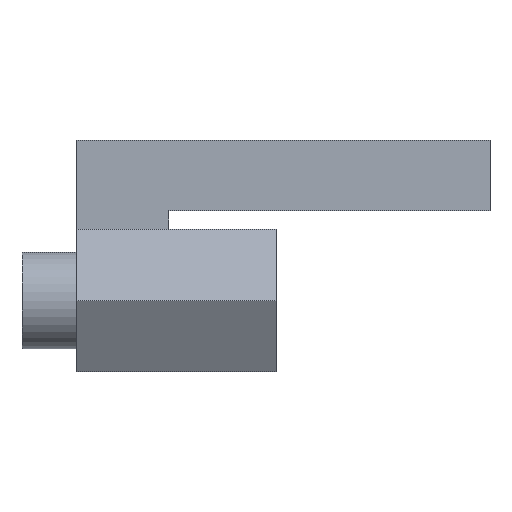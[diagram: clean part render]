
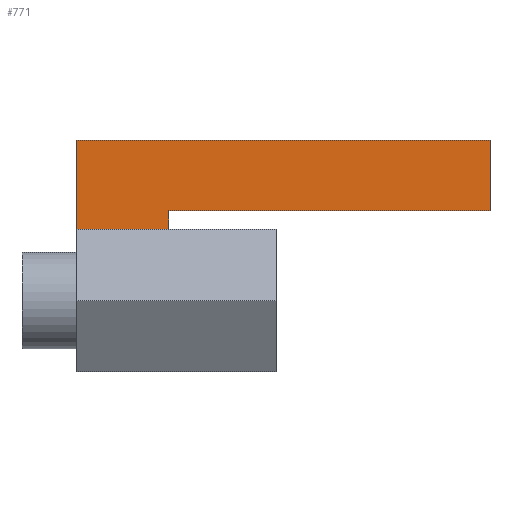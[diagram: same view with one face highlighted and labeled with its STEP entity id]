
A CAD part, front view. The second image highlights one B-rep face of the part: STEP entity #771.
In plain terms, the highlighted planar face has unit normal (0, -1, 0).
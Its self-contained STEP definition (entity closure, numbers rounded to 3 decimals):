
#312 = PLANE('',#313);
#313 = AXIS2_PLACEMENT_3D('',#314,#315,#316);
#314 = CARTESIAN_POINT('',(-1.34,0.,0.
    ));
#315 = DIRECTION('',(-1.,0.,0.));
#316 = DIRECTION('',(0.,0.,1.));
#410 = PLANE('',#411);
#411 = AXIS2_PLACEMENT_3D('',#412,#413,#414);
#412 = CARTESIAN_POINT('',(0.28,0.17,1.07));
#413 = DIRECTION('',(0.,0.,1.));
#414 = DIRECTION('',(-1.,0.,0.));
#434 = EDGE_CURVE('',#435,#437,#439,.T.);
#435 = VERTEX_POINT('',#436);
#436 = CARTESIAN_POINT('',(1.42,-0.17,1.07));
#437 = VERTEX_POINT('',#438);
#438 = CARTESIAN_POINT('',(1.42,-0.17,0.6));
#439 = SURFACE_CURVE('',#440,(#444,#456),.PCURVE_S1.);
#440 = LINE('',#441,#442);
#441 = CARTESIAN_POINT('',(1.42,-0.17,1.07));
#442 = VECTOR('',#443,1.);
#443 = DIRECTION('',(0.,0.,-1.));
#444 = PCURVE('',#445,#450);
#445 = PLANE('',#446);
#446 = AXIS2_PLACEMENT_3D('',#447,#448,#449);
#447 = CARTESIAN_POINT('',(1.42,0.17,0.835));
#448 = DIRECTION('',(1.,0.,0.));
#449 = DIRECTION('',(0.,0.,1.));
#450 = DEFINITIONAL_REPRESENTATION('',(#451),#455);
#451 = LINE('',#452,#453);
#452 = CARTESIAN_POINT('',(0.235,0.34));
#453 = VECTOR('',#454,1.);
#454 = DIRECTION('',(-1.,0.));
#455 = ( GEOMETRIC_REPRESENTATION_CONTEXT(2) 
PARAMETRIC_REPRESENTATION_CONTEXT() REPRESENTATION_CONTEXT('2D SPACE',''
  ) );
#456 = PCURVE('',#457,#462);
#457 = PLANE('',#458);
#458 = AXIS2_PLACEMENT_3D('',#459,#460,#461);
#459 = CARTESIAN_POINT('',(0.,-0.17,0.812));
#460 = DIRECTION('',(0.,1.,0.));
#461 = DIRECTION('',(0.,-0.,1.));
#462 = DEFINITIONAL_REPRESENTATION('',(#463),#467);
#463 = LINE('',#464,#465);
#464 = CARTESIAN_POINT('',(0.258,1.42));
#465 = VECTOR('',#466,1.);
#466 = DIRECTION('',(-1.,0.));
#467 = ( GEOMETRIC_REPRESENTATION_CONTEXT(2) 
PARAMETRIC_REPRESENTATION_CONTEXT() REPRESENTATION_CONTEXT('2D SPACE',''
  ) );
#485 = PLANE('',#486);
#486 = AXIS2_PLACEMENT_3D('',#487,#488,#489);
#487 = CARTESIAN_POINT('',(0.35,0.17,0.6));
#488 = DIRECTION('',(0.,0.,-1.));
#489 = DIRECTION('',(1.,0.,0.));
#549 = EDGE_CURVE('',#437,#550,#552,.T.);
#550 = VERTEX_POINT('',#551);
#551 = CARTESIAN_POINT('',(-0.72,-0.17,0.6));
#552 = SURFACE_CURVE('',#553,(#557,#564),.PCURVE_S1.);
#553 = LINE('',#554,#555);
#554 = CARTESIAN_POINT('',(1.42,-0.17,0.6));
#555 = VECTOR('',#556,1.);
#556 = DIRECTION('',(-1.,0.,0.));
#557 = PCURVE('',#485,#558);
#558 = DEFINITIONAL_REPRESENTATION('',(#559),#563);
#559 = LINE('',#560,#561);
#560 = CARTESIAN_POINT('',(1.07,0.34));
#561 = VECTOR('',#562,1.);
#562 = DIRECTION('',(-1.,0.));
#563 = ( GEOMETRIC_REPRESENTATION_CONTEXT(2) 
PARAMETRIC_REPRESENTATION_CONTEXT() REPRESENTATION_CONTEXT('2D SPACE',''
  ) );
#564 = PCURVE('',#457,#565);
#565 = DEFINITIONAL_REPRESENTATION('',(#566),#570);
#566 = LINE('',#567,#568);
#567 = CARTESIAN_POINT('',(-0.212,1.42));
#568 = VECTOR('',#569,1.);
#569 = DIRECTION('',(0.,-1.));
#570 = ( GEOMETRIC_REPRESENTATION_CONTEXT(2) 
PARAMETRIC_REPRESENTATION_CONTEXT() REPRESENTATION_CONTEXT('2D SPACE',''
  ) );
#588 = PLANE('',#589);
#589 = AXIS2_PLACEMENT_3D('',#590,#591,#592);
#590 = CARTESIAN_POINT('',(-0.72,0.17,0.538));
#591 = DIRECTION('',(1.,0.,0.));
#592 = DIRECTION('',(0.,0.,1.));
#625 = EDGE_CURVE('',#550,#626,#628,.T.);
#626 = VERTEX_POINT('',#627);
#627 = CARTESIAN_POINT('',(-0.72,-0.17,0.475));
#628 = SURFACE_CURVE('',#629,(#633,#640),.PCURVE_S1.);
#629 = LINE('',#630,#631);
#630 = CARTESIAN_POINT('',(-0.72,-0.17,0.6));
#631 = VECTOR('',#632,1.);
#632 = DIRECTION('',(0.,0.,-1.));
#633 = PCURVE('',#588,#634);
#634 = DEFINITIONAL_REPRESENTATION('',(#635),#639);
#635 = LINE('',#636,#637);
#636 = CARTESIAN_POINT('',(0.063,0.34));
#637 = VECTOR('',#638,1.);
#638 = DIRECTION('',(-1.,0.));
#639 = ( GEOMETRIC_REPRESENTATION_CONTEXT(2) 
PARAMETRIC_REPRESENTATION_CONTEXT() REPRESENTATION_CONTEXT('2D SPACE',''
  ) );
#640 = PCURVE('',#457,#641);
#641 = DEFINITIONAL_REPRESENTATION('',(#642),#646);
#642 = LINE('',#643,#644);
#643 = CARTESIAN_POINT('',(-0.212,-0.72));
#644 = VECTOR('',#645,1.);
#645 = DIRECTION('',(-1.,0.));
#646 = ( GEOMETRIC_REPRESENTATION_CONTEXT(2) 
PARAMETRIC_REPRESENTATION_CONTEXT() REPRESENTATION_CONTEXT('2D SPACE',''
  ) );
#664 = PLANE('',#665);
#665 = AXIS2_PLACEMENT_3D('',#666,#667,#668);
#666 = CARTESIAN_POINT('',(0.,0.,0.475));
#667 = DIRECTION('',(0.,0.,1.));
#668 = DIRECTION('',(0.,1.,0.));
#704 = EDGE_CURVE('',#705,#435,#707,.T.);
#705 = VERTEX_POINT('',#706);
#706 = CARTESIAN_POINT('',(-1.34,-0.17,1.07));
#707 = SURFACE_CURVE('',#708,(#712,#719),.PCURVE_S1.);
#708 = LINE('',#709,#710);
#709 = CARTESIAN_POINT('',(-1.34,-0.17,1.07));
#710 = VECTOR('',#711,1.);
#711 = DIRECTION('',(1.,0.,0.));
#712 = PCURVE('',#410,#713);
#713 = DEFINITIONAL_REPRESENTATION('',(#714),#718);
#714 = LINE('',#715,#716);
#715 = CARTESIAN_POINT('',(1.62,0.34));
#716 = VECTOR('',#717,1.);
#717 = DIRECTION('',(-1.,0.));
#718 = ( GEOMETRIC_REPRESENTATION_CONTEXT(2) 
PARAMETRIC_REPRESENTATION_CONTEXT() REPRESENTATION_CONTEXT('2D SPACE',''
  ) );
#719 = PCURVE('',#457,#720);
#720 = DEFINITIONAL_REPRESENTATION('',(#721),#725);
#721 = LINE('',#722,#723);
#722 = CARTESIAN_POINT('',(0.258,-1.34));
#723 = VECTOR('',#724,1.);
#724 = DIRECTION('',(0.,1.));
#725 = ( GEOMETRIC_REPRESENTATION_CONTEXT(2) 
PARAMETRIC_REPRESENTATION_CONTEXT() REPRESENTATION_CONTEXT('2D SPACE',''
  ) );
#771 = ADVANCED_FACE('',(#772),#457,.F.);
#772 = FACE_BOUND('',#773,.T.);
#773 = EDGE_LOOP('',(#774,#775,#776,#799,#820,#821));
#774 = ORIENTED_EDGE('',*,*,#434,.F.);
#775 = ORIENTED_EDGE('',*,*,#704,.F.);
#776 = ORIENTED_EDGE('',*,*,#777,.F.);
#777 = EDGE_CURVE('',#778,#705,#780,.T.);
#778 = VERTEX_POINT('',#779);
#779 = CARTESIAN_POINT('',(-1.34,-0.17,0.475));
#780 = SURFACE_CURVE('',#781,(#785,#792),.PCURVE_S1.);
#781 = LINE('',#782,#783);
#782 = CARTESIAN_POINT('',(-1.34,-0.17,0.475));
#783 = VECTOR('',#784,1.);
#784 = DIRECTION('',(0.,0.,1.));
#785 = PCURVE('',#457,#786);
#786 = DEFINITIONAL_REPRESENTATION('',(#787),#791);
#787 = LINE('',#788,#789);
#788 = CARTESIAN_POINT('',(-0.337,-1.34));
#789 = VECTOR('',#790,1.);
#790 = DIRECTION('',(1.,0.));
#791 = ( GEOMETRIC_REPRESENTATION_CONTEXT(2) 
PARAMETRIC_REPRESENTATION_CONTEXT() REPRESENTATION_CONTEXT('2D SPACE',''
  ) );
#792 = PCURVE('',#312,#793);
#793 = DEFINITIONAL_REPRESENTATION('',(#794),#798);
#794 = LINE('',#795,#796);
#795 = CARTESIAN_POINT('',(0.475,-0.17));
#796 = VECTOR('',#797,1.);
#797 = DIRECTION('',(1.,0.));
#798 = ( GEOMETRIC_REPRESENTATION_CONTEXT(2) 
PARAMETRIC_REPRESENTATION_CONTEXT() REPRESENTATION_CONTEXT('2D SPACE',''
  ) );
#799 = ORIENTED_EDGE('',*,*,#800,.F.);
#800 = EDGE_CURVE('',#626,#778,#801,.T.);
#801 = SURFACE_CURVE('',#802,(#806,#813),.PCURVE_S1.);
#802 = LINE('',#803,#804);
#803 = CARTESIAN_POINT('',(0.,-0.17,0.475));
#804 = VECTOR('',#805,1.);
#805 = DIRECTION('',(-1.,0.,0.));
#806 = PCURVE('',#457,#807);
#807 = DEFINITIONAL_REPRESENTATION('',(#808),#812);
#808 = LINE('',#809,#810);
#809 = CARTESIAN_POINT('',(-0.337,0.));
#810 = VECTOR('',#811,1.);
#811 = DIRECTION('',(0.,-1.));
#812 = ( GEOMETRIC_REPRESENTATION_CONTEXT(2) 
PARAMETRIC_REPRESENTATION_CONTEXT() REPRESENTATION_CONTEXT('2D SPACE',''
  ) );
#813 = PCURVE('',#664,#814);
#814 = DEFINITIONAL_REPRESENTATION('',(#815),#819);
#815 = LINE('',#816,#817);
#816 = CARTESIAN_POINT('',(-0.17,0.));
#817 = VECTOR('',#818,1.);
#818 = DIRECTION('',(0.,1.));
#819 = ( GEOMETRIC_REPRESENTATION_CONTEXT(2) 
PARAMETRIC_REPRESENTATION_CONTEXT() REPRESENTATION_CONTEXT('2D SPACE',''
  ) );
#820 = ORIENTED_EDGE('',*,*,#625,.F.);
#821 = ORIENTED_EDGE('',*,*,#549,.F.);
